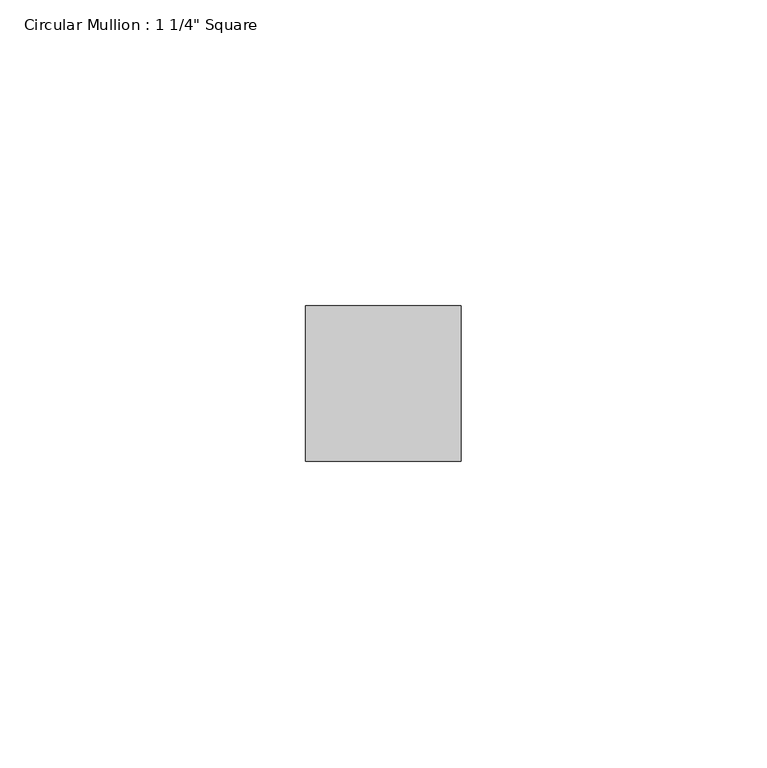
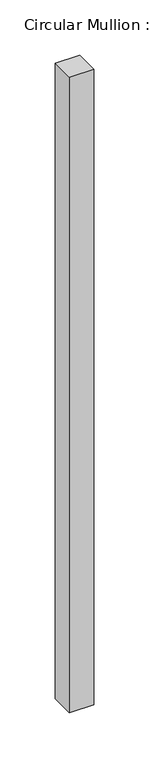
"""IFC4 building model written with IfcOpenShell, lengths in millimetres: member geometry."""

from ifc_helpers import new_model, si_unit, frame, origin, place, context, project, spatial, polyline, outline, extrude, source, transform, mapped, element, save


def member_88f59781(model_context):
    return source(origin(), model_context, "Body", "SweptSolid", [
        extrude(outline(polyline([(0.0, 12.7), (0.0, -12.7), (-25.4, -12.7), (-25.4, 12.7), (0.0, 12.7)])), frame((0.0, 0.0, -701.8598407), z_axis=(0.0, 0.0, 1.0), x_axis=(1.0, 0.0, 0.0)), (0.0, 0.0, 1.0), 701.8598407),
    ])


if __name__ == "__main__":
    model = new_model("IFC4")
    model_context = context("Model", 3, world=origin())
    ifc_project = project(units=[si_unit("LENGTHUNIT", "METRE", prefix="MILLI")], contexts=[model_context])
    site = spatial("IfcSite", under=ifc_project)
    building = spatial("IfcBuilding", under=site)
    placement = place(None, origin())
    member_shape = member_88f59781(model_context)
    element("IfcMember", 1, ObjectType="Circular Mullion : 1 1/4\" Square", at=placement, inside=building, context=model_context, shape_type="MappedRepresentation", body=[
        mapped(member_shape, transform((0.0, 0.0, 0.0), x_axis=(1.0, 0.0, 0.0), y_axis=(0.0, 1.0, 0.0), z_axis=(0.0, 0.0, 1.0))),
    ])
    save(model, "model.ifc")
